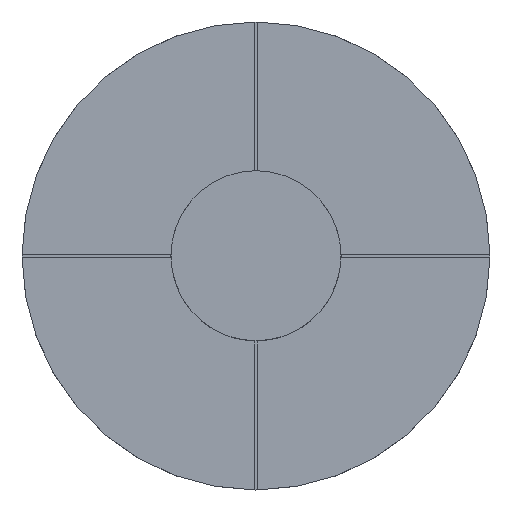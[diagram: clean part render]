
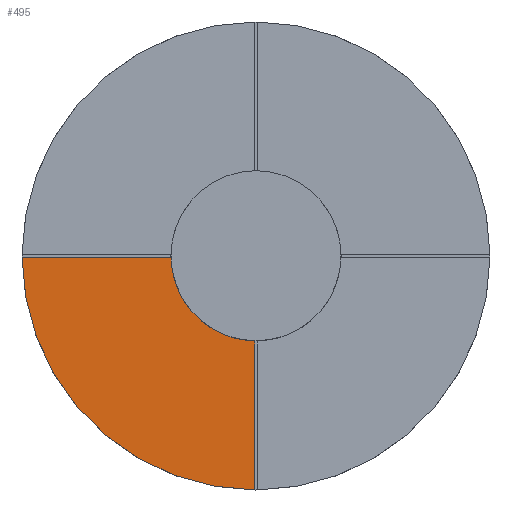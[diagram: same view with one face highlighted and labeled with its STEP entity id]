
A CAD part, top view. The second image highlights one B-rep face of the part: STEP entity #495.
In plain terms, the highlighted planar face has unit normal (0, 0, 1).
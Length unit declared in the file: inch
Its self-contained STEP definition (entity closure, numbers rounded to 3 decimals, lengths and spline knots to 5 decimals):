
#80=CARTESIAN_POINT('',(0.,0.,0.01));
#81=DIRECTION('',(0.,0.,1.));
#82=DIRECTION('',(-1.,-0.016,0.));
#83=AXIS2_PLACEMENT_3D('',#80,#81,#82);
#85=DIRECTION('',(0.,-1.,0.));
#86=VECTOR('',#85,0.05475);
#87=CARTESIAN_POINT('',(-0.0005,-0.03125,0.01));
#88=LINE('',#87,#86);
#89=CARTESIAN_POINT('',(0.,0.,0.01));
#90=DIRECTION('',(0.,0.,1.));
#91=DIRECTION('',(-1.,-0.006,0.));
#92=AXIS2_PLACEMENT_3D('',#89,#90,#91);
#94=DIRECTION('',(1.,0.,0.));
#95=VECTOR('',#94,0.05475);
#96=CARTESIAN_POINT('',(-0.086,-0.0005,0.01));
#97=LINE('',#96,#95);
#213=CARTESIAN_POINT('',(-0.086,-0.0005,0.01));
#215=CARTESIAN_POINT('',(-0.0005,-0.086,0.01));
#307=VERTEX_POINT('',#213);
#308=VERTEX_POINT('',#215);
#327=CARTESIAN_POINT('',(-0.03125,-0.0005,0.01));
#328=CARTESIAN_POINT('',(-0.0005,-0.03125,0.01));
#329=VERTEX_POINT('',#327);
#330=VERTEX_POINT('',#328);
#480=CARTESIAN_POINT('',(0.,0.,0.01));
#481=DIRECTION('',(0.,0.,1.));
#482=DIRECTION('',(1.,0.,0.));
#483=AXIS2_PLACEMENT_3D('',#480,#481,#482);
#484=PLANE('',#483);
#486=ORIENTED_EDGE('',*,*,#485,.T.);
#488=ORIENTED_EDGE('',*,*,#487,.T.);
#490=ORIENTED_EDGE('',*,*,#489,.F.);
#492=ORIENTED_EDGE('',*,*,#491,.T.);
#493=EDGE_LOOP('',(#486,#488,#490,#492));
#494=FACE_OUTER_BOUND('',#493,.F.);
#495=ADVANCED_FACE('',(#494),#484,.T.);
#84=CIRCLE('',#83,0.03125);
#93=CIRCLE('',#92,0.086);
#485=EDGE_CURVE('',#329,#330,#84,.T.);
#487=EDGE_CURVE('',#330,#308,#88,.T.);
#489=EDGE_CURVE('',#307,#308,#93,.T.);
#491=EDGE_CURVE('',#307,#329,#97,.T.);
